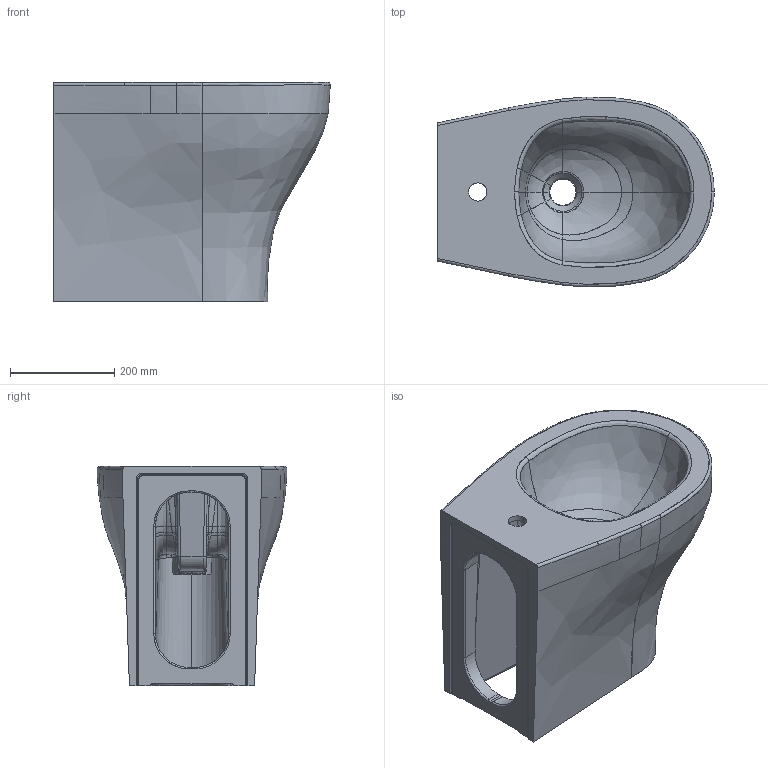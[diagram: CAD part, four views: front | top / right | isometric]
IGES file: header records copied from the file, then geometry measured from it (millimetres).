
Start section: START RECORD GO HERE.
Global section: file name: 7214.igs; native system: DASSAULT SYSTEMES CATIA V5 R19 - www.3ds.com; preprocessor: CATIA Version 5 Release 19 SP 5 ; author: gioge; organization: LAPTOP-G94B6G74; date: 20201002.165736; units: millimetre
Bounding box: 530.05 x 363.89 x 420 mm (x, y, z)
Surface area: 1159427.3 mm2 (no closed solid volume)
Topology: 0 solids, 0 shells, 228 faces, 1172 edges, 1169 vertices
Faces by surface type: bspline 166, revolution 53, plane 9
